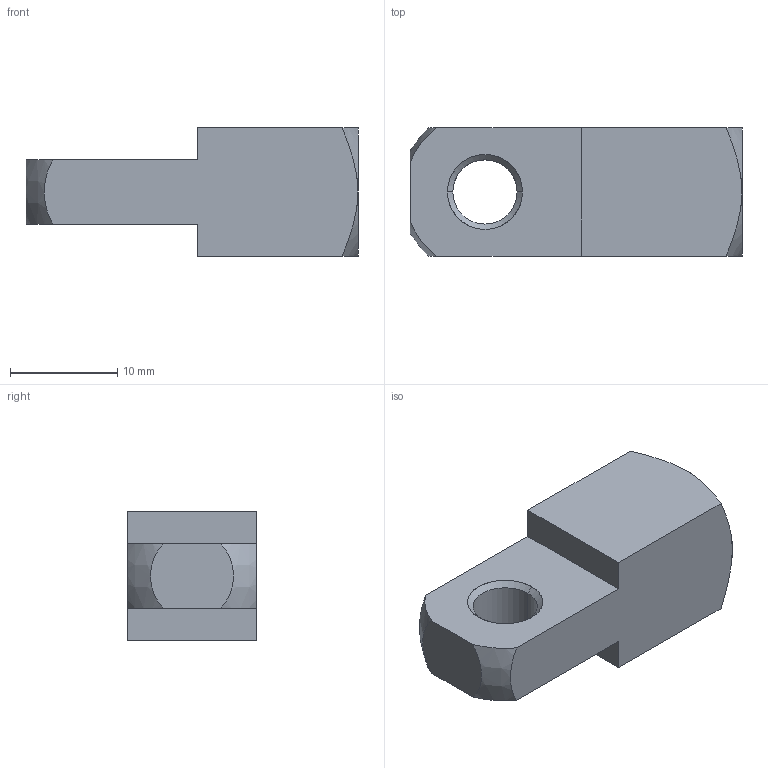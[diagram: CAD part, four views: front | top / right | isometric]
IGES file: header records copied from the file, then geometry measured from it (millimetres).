
Start section: SolidWorks IGES file using analytic representation for surfaces
Global section: file name: C:\Documents and Settings\IANO\My Documents\Wix and Auto CAD Work\CAD Models\Parametric Models\Wix Models\60000\65652_v2\65652_v2_IGES\65652.W0006.igs; native system: SolidWorks 2009; preprocessor: SolidWorks 2009; author: IANO; date: 140122.120825; units: millimetre
Bounding box: 31 x 12 x 12 mm (x, y, z)
Surface area: 1832.7 mm2 (no closed solid volume)
Topology: 0 solids, 0 shells, 31 faces, 448 edges, 446 vertices
Faces by surface type: revolution 18, bspline 13
